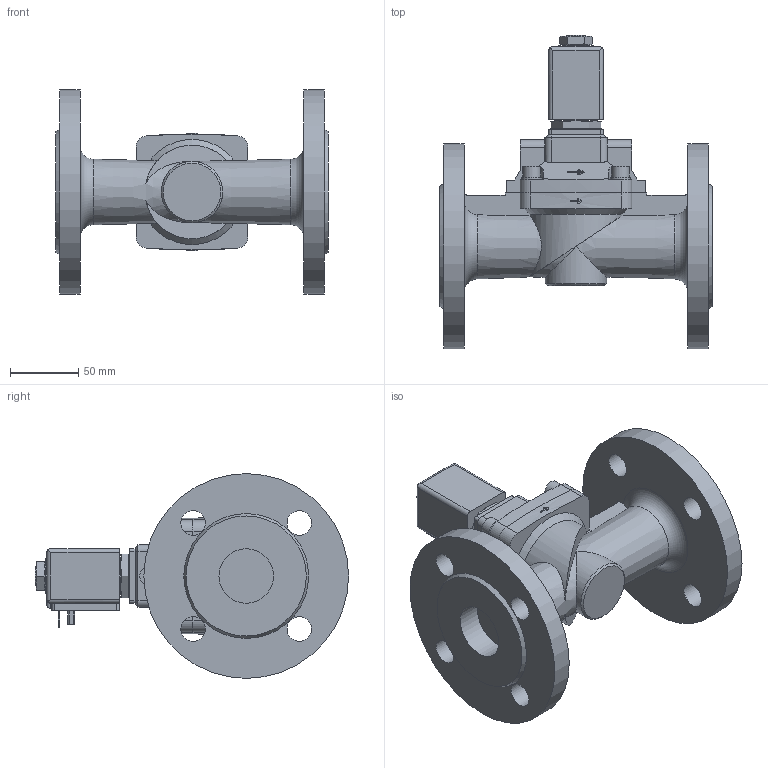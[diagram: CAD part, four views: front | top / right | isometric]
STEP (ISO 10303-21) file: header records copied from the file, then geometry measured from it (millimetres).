
FILE_DESCRIPTION(/* description */ ('STEP AP214'),/* implementation_level */ '2;1');
FILE_NAME(/* name */ '5404-363041-Servo-assisted_2_2_way_piston_valve',/* time_stamp */ '2024-02-29T15:14:47+01:00',/* author */ ('License CC BY-ND 4.0'),/* organization */ ('CADENAS'),/* preprocessor_version */ 'ST-DEVELOPER v19.3',/* originating_system */ 'PARTsolutions',/* authorisation */ ' ');
FILE_SCHEMA (('AUTOMOTIVE_DESIGN {1 0 10303 214 3 1 1}'));
Length unit declared in the file: millimetre
Products named in the file (4): 5404-363041-Servo-assisted 2/2 way piston valve; 5282g-FD0140VA100-2/2-Wege-Magnetventil_Gehaeuse; 5282d-40MSAZ4N-2/2-Wege-Magnetventil_Deckel; 6213sp 40 Plan 40
Assembly tree (3 placements, depth 2):
  5404-363041-Servo-assisted 2/2 way piston valve
    5282g-FD0140VA100-2/2-Wege-Magnetventil_Gehaeuse
    5282d-40MSAZ4N-2/2-Wege-Magnetventil_Deckel
    6213sp 40 Plan 40
Bounding box: 200 x 229.45 x 150 mm (x, y, z)
Volume: 1223782.4 mm3; surface area: 170034 mm2
Topology: 3 solids, 3 shells, 286 faces, 736 edges, 483 vertices
Faces by surface type: plane 165, cylinder 100, cone 19, torus 2
Full cylindrical faces by diameter (mm): 2.45 x1, 13 x4, 14 x1, 14.8 x4, 18 x8, 18.5 x1, 25.9 x1, 31.5 x1, 40 x2, 45 x1, 150 x2
Entity records: 9268 total; most frequent: CARTESIAN_POINT 1753, DIRECTION 1454, ORIENTED_EDGE 1384, EDGE_CURVE 692, AXIS2_PLACEMENT_3D 524, VERTEX_POINT 470, LINE 406, VECTOR 406
